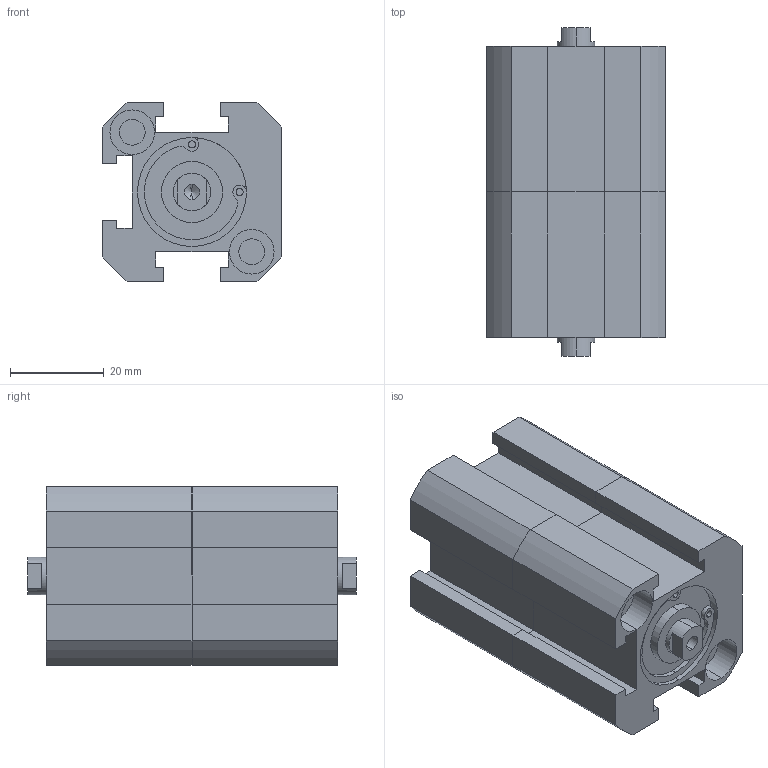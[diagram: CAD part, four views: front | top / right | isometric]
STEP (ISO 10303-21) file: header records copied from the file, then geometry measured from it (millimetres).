
FILE_DESCRIPTION (( 'STEP AP203' ), '1' );
FILE_NAME ('XCD7-20-10-10.STEP', '2016-08-05T01:38:25', ( '' ), ( '' ), 'SwSTEP 2.0', 'SolidWorks 2014', '' );
FILE_SCHEMA (( 'CONFIG_CONTROL_DESIGN' ));
Length unit declared in the file: millimetre
Products named in the file (2): XC#2-20-10; XCD7-20-10-10
Assembly tree (2 placements, depth 2):
  XCD7-20-10-10
    XC#2-20-10  x2
Bounding box: 38 x 70 x 38 mm (x, y, z)
Volume: 63980.5 mm3; surface area: 20869.6 mm2
Topology: 2 solids, 2 shells, 178 faces, 454 edges, 292 vertices
Faces by surface type: plane 88, cylinder 78, cone 12
Entity records: 2902 total; most frequent: DIRECTION 492, CARTESIAN_POINT 461, ORIENTED_EDGE 442, EDGE_CURVE 221, AXIS2_PLACEMENT_3D 177, VERTEX_POINT 146, LINE 138, VECTOR 138
